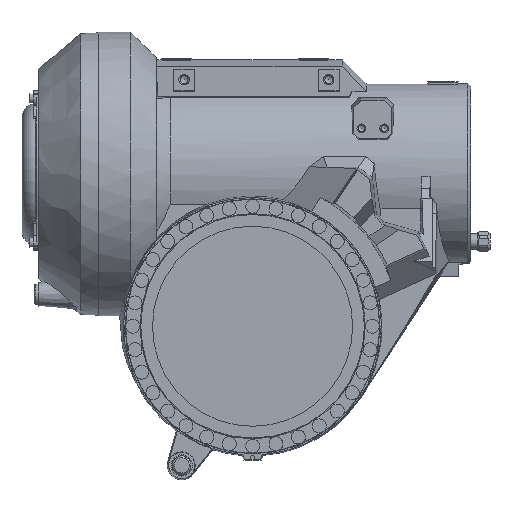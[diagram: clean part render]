
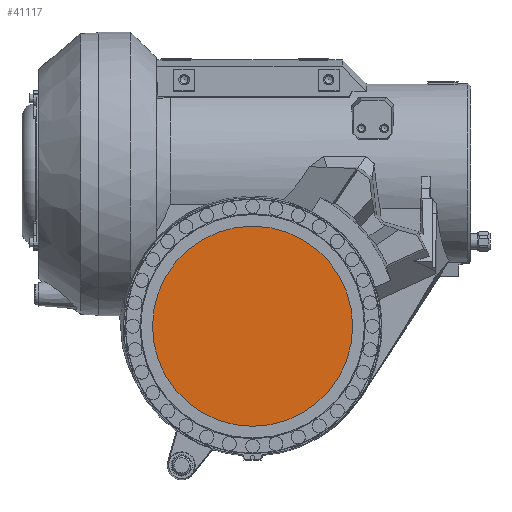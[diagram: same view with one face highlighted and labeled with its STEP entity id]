
A CAD part, front view. The second image highlights one B-rep face of the part: STEP entity #41117.
In plain terms, the highlighted planar face has unit normal (0, -1, 0).
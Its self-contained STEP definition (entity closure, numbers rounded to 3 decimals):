
#1716 = AXIS2_PLACEMENT_3D ( 'NONE', #11425, #35615, #43084 ) ;
#3104 = PLANE ( 'NONE',  #37820 ) ;
#9701 = CARTESIAN_POINT ( 'NONE',  ( 821.5, -265., 1740. ) ) ;
#11425 = CARTESIAN_POINT ( 'NONE',  ( 690., -265., 1740. ) ) ;
#13053 = CARTESIAN_POINT ( 'NONE',  ( 690., -265., 1871. ) ) ;
#13499 = FACE_OUTER_BOUND ( 'NONE', #41208, .T. ) ;
#19036 = CIRCLE ( 'NONE', #1716, 131.5 ) ;
#25132 = ORIENTED_EDGE ( 'NONE', *, *, #38288, .T. ) ;
#27296 = DIRECTION ( 'NONE',  ( 0., 1., 0. ) ) ;
#30493 = VERTEX_POINT ( 'NONE', #9701 ) ;
#35615 = DIRECTION ( 'NONE',  ( 0., -1., 0. ) ) ;
#37820 = AXIS2_PLACEMENT_3D ( 'NONE', #13053, #27296, #41080 ) ;
#38288 = EDGE_CURVE ( 'NONE', #30493, #30493, #19036, .T. ) ;
#41080 = DIRECTION ( 'NONE',  ( -1., 0., 0. ) ) ;
#41117 = ADVANCED_FACE ( 'NONE', ( #13499 ), #3104, .F. ) ;
#41208 = EDGE_LOOP ( 'NONE', ( #25132 ) ) ;
#43084 = DIRECTION ( 'NONE',  ( 1., 0., 0. ) ) ;
